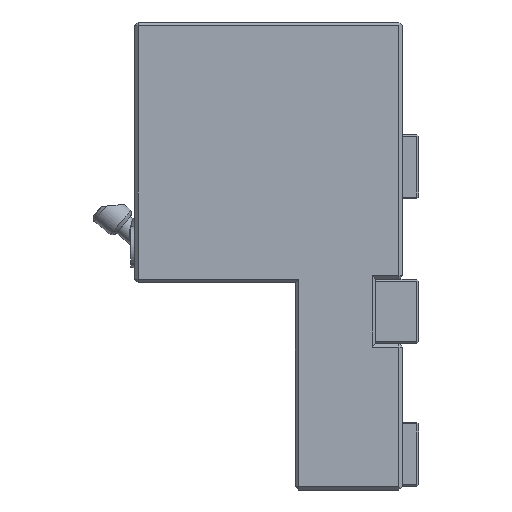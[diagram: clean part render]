
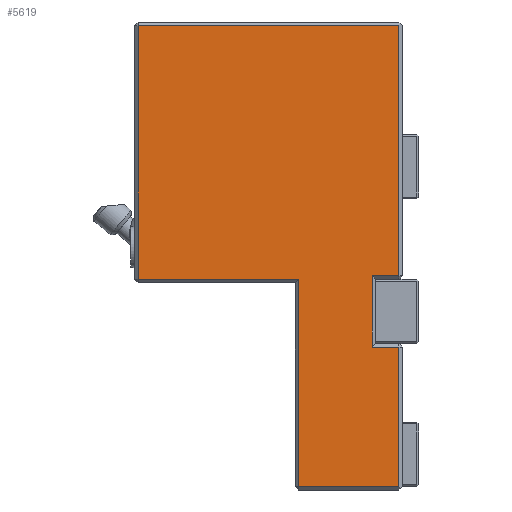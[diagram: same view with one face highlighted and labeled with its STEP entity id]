
A CAD part, left-side view. The second image highlights one B-rep face of the part: STEP entity #5619.
In plain terms, the highlighted planar face has unit normal (-1, 0, 0).
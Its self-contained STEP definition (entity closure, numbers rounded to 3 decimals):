
#247=PLANE('',#6041);
#581=FACE_OUTER_BOUND('',#929,.T.);
#929=EDGE_LOOP('',(#4405,#4406,#4407,#4408,#4409,#4410,#4411,#4412,#4413,
#4414));
#1446=LINE('',#8848,#2020);
#1449=LINE('',#8853,#2023);
#1451=LINE('',#8858,#2025);
#1459=LINE('',#8871,#2033);
#1463=LINE('',#8880,#2037);
#1473=LINE('',#8900,#2047);
#1475=LINE('',#8904,#2049);
#1476=LINE('',#8906,#2050);
#1477=LINE('',#8908,#2051);
#1478=LINE('',#8909,#2052);
#2020=VECTOR('',#7100,10.);
#2023=VECTOR('',#7107,10.);
#2025=VECTOR('',#7113,10.);
#2033=VECTOR('',#7129,10.);
#2037=VECTOR('',#7139,10.);
#2047=VECTOR('',#7157,10.);
#2049=VECTOR('',#7161,10.);
#2050=VECTOR('',#7162,10.);
#2051=VECTOR('',#7163,10.);
#2052=VECTOR('',#7164,10.);
#2659=VERTEX_POINT('',#8791);
#2670=VERTEX_POINT('',#8825);
#2674=VERTEX_POINT('',#8837);
#2678=VERTEX_POINT('',#8847);
#2679=VERTEX_POINT('',#8857);
#2682=VERTEX_POINT('',#8878);
#2688=VERTEX_POINT('',#8899);
#2689=VERTEX_POINT('',#8903);
#2690=VERTEX_POINT('',#8905);
#2691=VERTEX_POINT('',#8907);
#3282=EDGE_CURVE('',#2674,#2678,#1446,.T.);
#3285=EDGE_CURVE('',#2670,#2674,#1449,.T.);
#3287=EDGE_CURVE('',#2679,#2670,#1451,.T.);
#3295=EDGE_CURVE('',#2659,#2679,#1459,.T.);
#3299=EDGE_CURVE('',#2682,#2659,#1463,.T.);
#3309=EDGE_CURVE('',#2678,#2688,#1473,.T.);
#3311=EDGE_CURVE('',#2689,#2682,#1475,.T.);
#3312=EDGE_CURVE('',#2690,#2689,#1476,.T.);
#3313=EDGE_CURVE('',#2691,#2690,#1477,.T.);
#3314=EDGE_CURVE('',#2688,#2691,#1478,.T.);
#4405=ORIENTED_EDGE('',*,*,#3282,.F.);
#4406=ORIENTED_EDGE('',*,*,#3285,.F.);
#4407=ORIENTED_EDGE('',*,*,#3287,.F.);
#4408=ORIENTED_EDGE('',*,*,#3295,.F.);
#4409=ORIENTED_EDGE('',*,*,#3299,.F.);
#4410=ORIENTED_EDGE('',*,*,#3311,.F.);
#4411=ORIENTED_EDGE('',*,*,#3312,.F.);
#4412=ORIENTED_EDGE('',*,*,#3313,.F.);
#4413=ORIENTED_EDGE('',*,*,#3314,.F.);
#4414=ORIENTED_EDGE('',*,*,#3309,.F.);
#5619=ADVANCED_FACE('',(#581),#247,.T.);
#6041=AXIS2_PLACEMENT_3D('',#8902,#7159,#7160);
#7100=DIRECTION('',(0.,-1.,0.));
#7107=DIRECTION('',(0.,0.,1.));
#7113=DIRECTION('',(0.,1.,0.));
#7129=DIRECTION('',(0.,0.,1.));
#7139=DIRECTION('',(0.,1.,0.));
#7157=DIRECTION('',(0.,0.,-1.));
#7159=DIRECTION('center_axis',(-1.,0.,0.));
#7160=DIRECTION('ref_axis',(0.,0.,1.));
#7161=DIRECTION('',(0.,0.,-1.));
#7162=DIRECTION('',(0.,-1.,0.));
#7163=DIRECTION('',(0.,0.,-1.));
#7164=DIRECTION('',(0.,1.,0.));
#8791=CARTESIAN_POINT('',(0.,29.,-130.));
#8825=CARTESIAN_POINT('',(0.,74.,-72.));
#8837=CARTESIAN_POINT('',(0.,74.,-1.));
#8847=CARTESIAN_POINT('',(0.,1.,-1.));
#8848=CARTESIAN_POINT('',(0.,0.,-1.));
#8853=CARTESIAN_POINT('',(0.,74.,-98.25));
#8857=CARTESIAN_POINT('',(0.,29.,-72.));
#8858=CARTESIAN_POINT('',(0.,37.5,-72.));
#8871=CARTESIAN_POINT('',(0.,29.,-116.5));
#8878=CARTESIAN_POINT('',(0.,1.,-130.));
#8880=CARTESIAN_POINT('',(0.,0.,-130.));
#8899=CARTESIAN_POINT('',(0.,1.,-71.));
#8900=CARTESIAN_POINT('',(0.,1.,-98.25));
#8902=CARTESIAN_POINT('Origin',(0.,0.,-131.));
#8903=CARTESIAN_POINT('',(0.,1.,-91.));
#8904=CARTESIAN_POINT('',(0.,1.,-98.25));
#8905=CARTESIAN_POINT('',(0.,8.5,-91.));
#8906=CARTESIAN_POINT('',(0.,0.,-91.));
#8907=CARTESIAN_POINT('',(0.,8.5,-71.));
#8908=CARTESIAN_POINT('',(0.,8.5,-104.5));
#8909=CARTESIAN_POINT('',(0.,0.,-71.));
